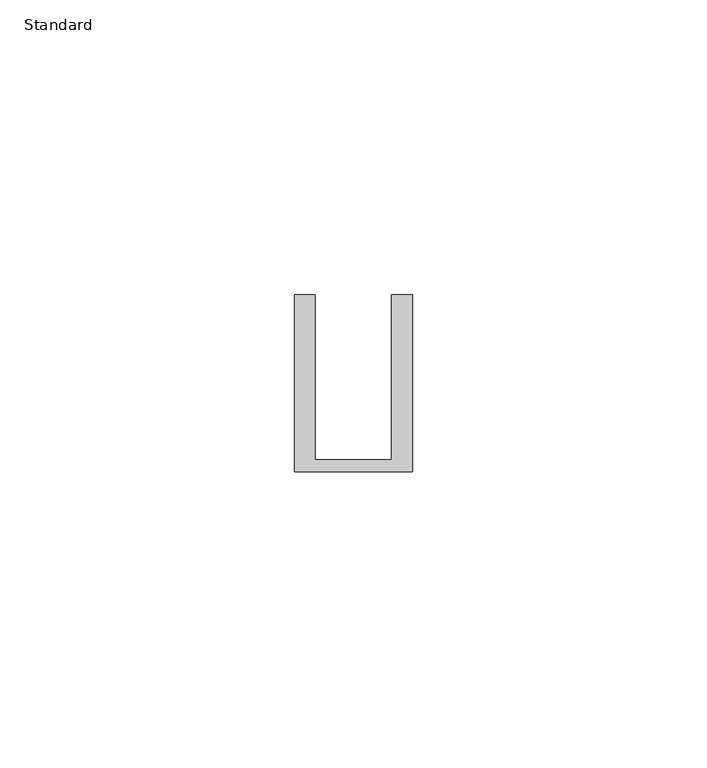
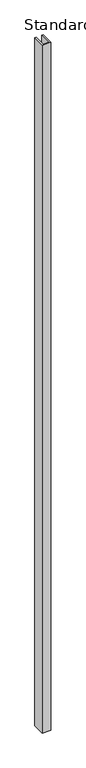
"""IFC4 building model written with IfcOpenShell, lengths in millimetres: furniture geometry, X_Partition-Channel-Duracube-Corner : Standard."""

from ifc_helpers import new_model, si_unit, frame, origin, place, context, project, spatial, polyline, outline, extrude, source, transform, mapped, element, save


def standard_c67f05f5(model_context):
    return source(origin(), model_context, "Body", "SweptSolid", [
        extrude(outline(polyline([(21.4503264, 0.0), (24.9503264, 0.0), (24.9503264, -28.0), (37.9503264, -28.0), (37.9503264, 0.0), (41.4503264, 0.0), (41.4503264, -30.0), (21.4503264, -30.0), (21.4503264, 0.0)])), frame((0.0, 0.0, 200.0), z_axis=(0.0, 0.0, 1.0), x_axis=(1.0, 0.0, 0.0)), (0.0, 0.0, 1.0), 1700.0),
    ])


if __name__ == "__main__":
    model = new_model("IFC4")
    model_context = context("Model", 3, world=origin())
    ifc_project = project(units=[si_unit("LENGTHUNIT", "METRE", prefix="MILLI")], contexts=[model_context])
    site = spatial("IfcSite", under=ifc_project)
    building = spatial("IfcBuilding", under=site)
    placement = place(None, origin())
    standard_shape = standard_c67f05f5(model_context)
    element("IfcFurniture", 1, ObjectType="X_Partition-Channel-Duracube-Corner : Standard", at=placement, inside=building, context=model_context, shape_type="MappedRepresentation", body=[
        mapped(standard_shape, transform((0.0, 0.0, 0.0), x_axis=(1.0, 0.0, 0.0), y_axis=(0.0, 1.0, 0.0), z_axis=(0.0, 0.0, 1.0))),
    ])
    save(model, "model.ifc")
